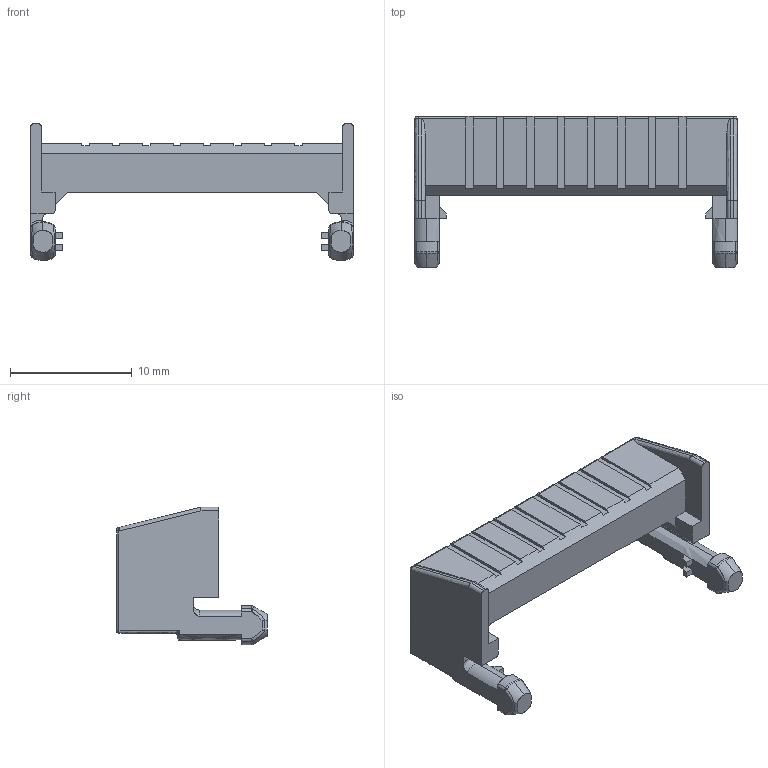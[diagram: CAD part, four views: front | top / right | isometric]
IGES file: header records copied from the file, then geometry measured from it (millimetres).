
Start section: SolidWorks IGES file using analytic representation for surfaces
Bounding box: 26.5 x 12.4 x 11.3 mm (x, y, z)
Surface area: 966.6 mm2 (no closed solid volume)
Topology: 0 solids, 0 shells, 223 faces, 1450 edges, 1442 vertices
Faces by surface type: bspline 137, revolution 86
